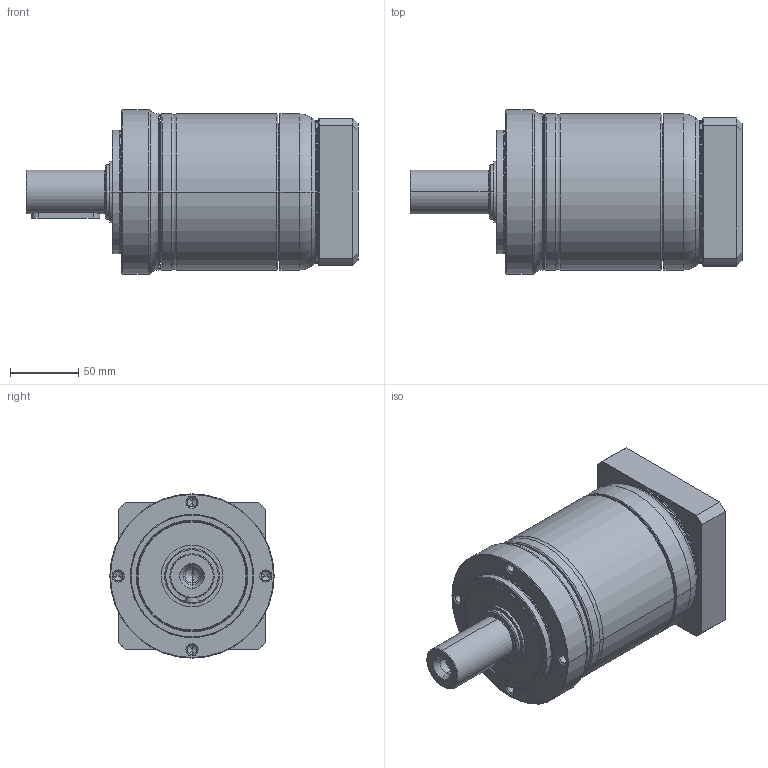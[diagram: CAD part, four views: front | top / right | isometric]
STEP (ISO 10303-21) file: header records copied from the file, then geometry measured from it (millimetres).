
FILE_DESCRIPTION((''),'2;1');
FILE_NAME('PE2-120_2ST_28-P0411600101_ASM','2017-06-03T',('d01943'),(''),'PRO/ENGINEER BY PARAMETRIC TECHNOLOGY CORPORATION, 2008410','PRO/ENGINEER BY PARAMETRIC TECHNOLOGY CORPORATION, 2008410','');
FILE_SCHEMA(('CONFIG_CONTROL_DESIGN'));
Length unit declared in the file: millimetre
Products named in the file (9): P1323410001; P0251400001; P1324400201; P0350401001; P0941402001; P0503600008; P0411600101; P1702500001; PE2-120_2ST_28-P0411600101_ASM
Assembly tree (8 placements, depth 2):
  PE2-120_2ST_28-P0411600101_ASM
    P1323410001
    P0251400001
    P1324400201
    P0350401001
    P0941402001
    P0503600008
    P0411600101
    P1702500001
Bounding box: 242.5 x 120 x 120 mm (x, y, z)
Volume: 1294976 mm3; surface area: 238450.7 mm2
Topology: 8 solids, 8 shells, 480 faces, 1049 edges, 600 vertices
Faces by surface type: cone 142, cylinder 142, torus 102, plane 78, bspline 16
Entity records: 17702 total; most frequent: CARTESIAN_POINT 6951, DIRECTION 2457, ORIENTED_EDGE 2034, AXIS2_PLACEMENT_3D 1056, EDGE_CURVE 1017, VERTEX_POINT 600, CIRCLE 575, EDGE_LOOP 543
